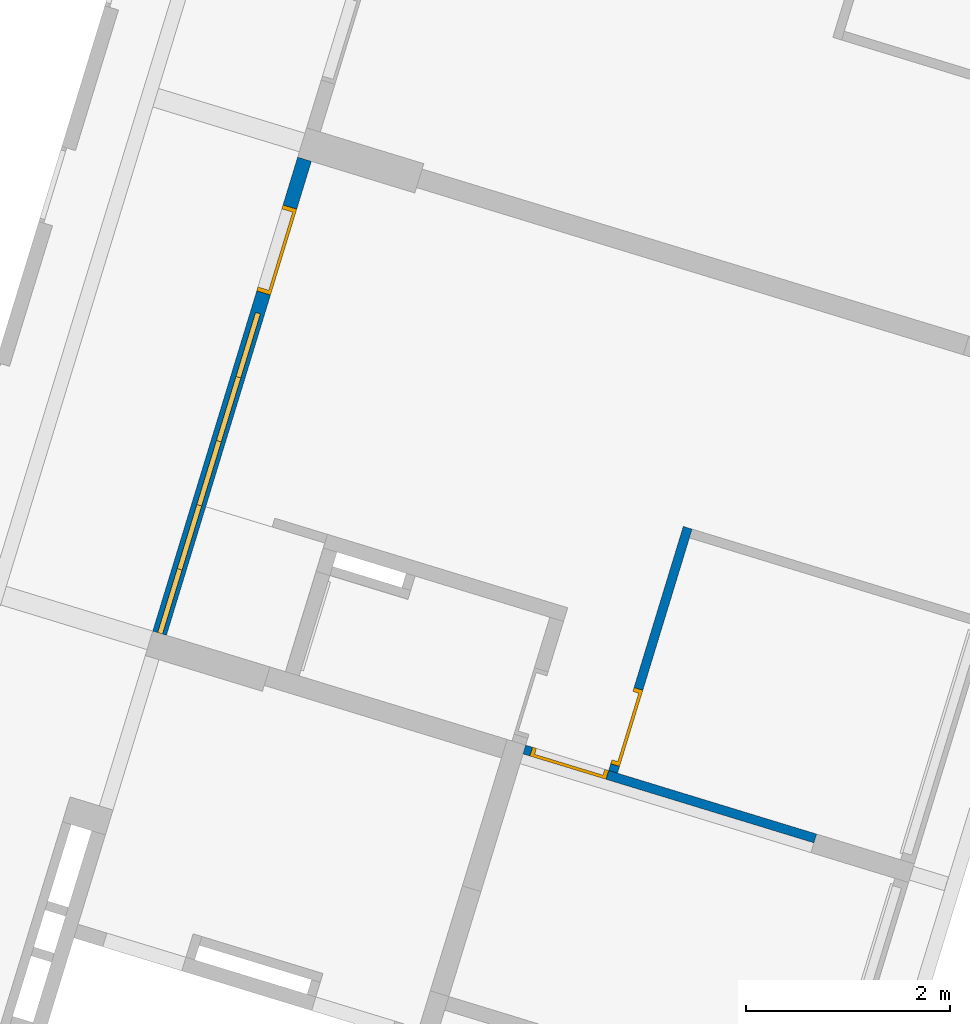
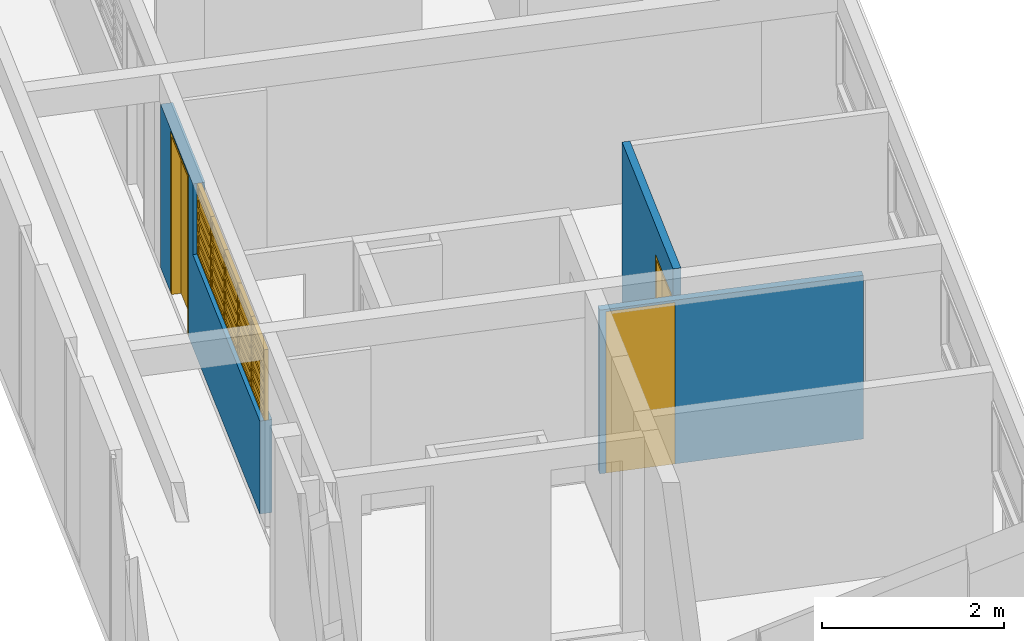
# One storey, part 2 of 18: 5 windows, 3 doors, 3 walls, 8 openings.
"""IFC2X3 building model written with IfcOpenShell, lengths in millimetres."""

from ifc_helpers import new_model, entity, si_unit, converted_unit, derived_unit, money_unit, direction, frame, origin_with_axes, place, context, subcontext, project, spatial, open_shell, faceted_brep, surface_model, source, transform, mapped, material, type_object, element, fill, save


model = new_model("IFC2X3")

# Units and contexts
model_context = context("Model", 3, precision=0.01, world=origin_with_axes(), true_north=direction((0.0, 1.0)))
body_context = subcontext(model_context, "Body", "Model", "MODEL_VIEW")
ifc_project = project(units=[si_unit("LENGTHUNIT", "METRE", prefix="MILLI"), si_unit("AREAUNIT", "SQUARE_METRE"), si_unit("VOLUMEUNIT", "CUBIC_METRE"), converted_unit("PLANEANGLEUNIT", "DEGREE", entity("IfcPlaneAngleMeasure", 0.0174532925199), si_unit("PLANEANGLEUNIT", "RADIAN"), dimensions=[0, 0, 0, 0, 0, 0, 0]), money_unit("USD"), converted_unit("TIMEUNIT", "Year", entity("IfcTimeMeasure", 31556926.0), si_unit("TIMEUNIT", "SECOND"), dimensions=[0, 0, 1, 0, 0, 0, 0]), si_unit("MASSUNIT", "GRAM", prefix="KILO"), si_unit("THERMODYNAMICTEMPERATUREUNIT", "DEGREE_CELSIUS"), si_unit("LUMINOUSINTENSITYUNIT", "LUMEN"), si_unit("ENERGYUNIT", "JOULE", prefix="MEGA"), derived_unit("THERMALCONDUCTANCEUNIT", [(si_unit("POWERUNIT", "WATT"), 1), (si_unit("LENGTHUNIT", "METRE"), -1), (si_unit("THERMODYNAMICTEMPERATUREUNIT", "KELVIN"), -1)]), derived_unit("SPECIFICHEATCAPACITYUNIT", [(si_unit("ENERGYUNIT", "JOULE"), 1), (si_unit("MASSUNIT", "GRAM", prefix="KILO"), -1), (si_unit("THERMODYNAMICTEMPERATUREUNIT", "KELVIN"), -1)]), derived_unit("MASSDENSITYUNIT", [(si_unit("MASSUNIT", "GRAM", prefix="KILO"), 1), (si_unit("VOLUMEUNIT", "CUBIC_METRE"), -1)])], contexts=[model_context])

# Site, building, storey, space
site_placement = place(None, frame((0.0, 0.0, 0.0), z_axis=(0.0, 0.0, 1.0), x_axis=(0.956304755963, -0.292371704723, 0.0)))
site = spatial("IfcSite", under=ifc_project, at=site_placement, Name="Site", CompositionType="ELEMENT")
building_placement = place(site_placement, origin_with_axes())
building = spatial("IfcBuilding", under=site, at=building_placement, Name="Building", CompositionType="ELEMENT")
storey_placement = place(building_placement, origin_with_axes())
storey = spatial("IfcBuildingStorey", under=building, at=storey_placement, Name="Pavimento tipo", CompositionType="ELEMENT", Elevation=0.0)
space_placement = place(storey_placement, frame((2841.71099896, 14449.9999947, 0.0), z_axis=(0.0, 0.0, 1.0), x_axis=(6.32291681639e-07, -1.0, 0.0)))
space = spatial("IfcSpace", under=storey, at=space_placement, Name="02", CompositionType="ELEMENT", InteriorOrExteriorSpace="INTERNAL")

# Wall, opening, door
ifc_material = material(Name="Tijolo - Estrutural")
wall_type_1 = type_object("IfcWallType", Name="Tijolo - Estrutural 90", PredefinedType="NOTDEFINED")
wall_1_placement = place(space_placement, frame((4909.98823067, 5599.99687912, 0.0), z_axis=(0.0, 0.0, 1.0), x_axis=(-6.30554045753e-07, -1.0, 0.0)))
wall_1 = element("IfcWall", 1, at=wall_1_placement, inside=space, type_object=wall_type_1, material=ifc_material, Name="Apt 02 - Parede 29", context=body_context, shape_type="Brep", body=[
    faceted_brep([(2909.99999781, -5.05652053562e-06, 2170.0), (2909.99999781, -5.05652053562e-06, 0.0), (2979.99994213, -5.17815479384e-06, 0.0), (2979.99994213, -5.17815479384e-06, 2200.0), (0.0, 0.0, 2200.0), (0.0, 0.0, 0.0), (2129.99999781, -3.70116381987e-06, 0.0), (2129.99999781, -3.70116381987e-06, 2170.0), (2909.99999797, 89.9999949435, 2170.0), (2909.99999797, 89.9999949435, 0.0), (2979.99987116, 89.9999948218, 0.0), (2979.99987116, 89.9999948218, 2200.0), (1.56386903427e-07, 90.0, 2200.0), (1.56386903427e-07, 90.0, 0.0), (2129.99999797, 89.9999962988, 0.0), (2129.99999797, 89.9999962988, 2170.0)], [[[0, 1, 2, 3, 4, 5, 6, 7]], [[1, 0, 8, 9]], [[1, 9, 10, 2]], [[11, 3, 2, 10]], [[3, 11, 12, 4]], [[5, 4, 12, 13]], [[14, 6, 5, 13]], [[7, 6, 14, 15]], [[0, 7, 15, 8]], [[15, 14, 13, 12, 11, 10, 9, 8]]]),
])
opening_1_placement = place(wall_1_placement, frame((2519.99999781, 0.0, 0.0), z_axis=(0.0, 0.0, 1.0), x_axis=(1.0, 0.0, 0.0)))
opening_1 = element("IfcOpeningElement", 2, at=opening_1_placement, cuts=wall_1, Name="Apt 02 - Porta 07", context=body_context, shape_type="Brep", body=[
    faceted_brep([(390.000000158, 91.0000001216, 2170.0), (390.000000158, 91.0000001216, 0.0), (-389.999999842, 91.000001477, 0.0), (-389.999999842, 91.000001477, 2170.0), (389.999999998, -1.00000505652, 2170.0), (389.999999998, -1.00000505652, 0.0), (-390.000000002, -1.00000370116, 0.0), (-390.000000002, -1.00000370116, 2170.0)], [[[0, 1, 2, 3]], [[4, 5, 1, 0]], [[5, 6, 2, 1]], [[6, 7, 3, 2]], [[7, 4, 0, 3]], [[6, 5, 4, 7]]]),
])
door_style_1 = type_object("IfcDoorStyle", Name="Door 26", ConstructionType="NOTDEFINED", OperationType="SINGLE_SWING_RIGHT", ParameterTakesPrecedence=False, Sizeable=False)
shared_shape_1 = source(origin_with_axes(), body_context, "Body", "Brep", [
    faceted_brep([(-350.0, -30.0, 0.0), (-350.0, -30.0, 2130.0), (-350.0, -90.0, 2130.0), (-350.0, -90.0, 0.0), (-360.0, -30.0, 2130.0), (-360.0, -30.0, 0.0), (-360.0, 0.0, 2130.0), (-390.0, 0.0, 2130.0), (-390.0, -90.0, 2130.0), (-390.0, -90.0, 0.0), (-390.0, 0.0, 0.0), (-360.0, 0.0, 0.0)], [[[0, 1, 2, 3]], [[4, 1, 0, 5]], [[4, 6, 7, 8, 2, 1]], [[3, 2, 8, 9]], [[5, 0, 3, 9, 10, 11]], [[6, 4, 5, 11]], [[6, 11, 10, 7]], [[10, 9, 8, 7]]]),
    faceted_brep([(360.0, -30.0, 2130.0), (350.0, -30.0, 2130.0), (350.0, -90.0, 2130.0), (390.0, -90.0, 2130.0), (390.0, 0.0, 2130.0), (360.0, 0.0, 2130.0), (360.0, -30.0, 0.0), (350.0, -30.0, 0.0), (350.0, -90.0, 0.0), (390.0, -90.0, 0.0), (390.0, 0.0, 0.0), (360.0, 0.0, 0.0)], [[[0, 1, 2, 3, 4, 5]], [[1, 0, 6, 7]], [[1, 7, 8, 2]], [[3, 2, 8, 9]], [[4, 3, 9, 10]], [[11, 5, 4, 10]], [[0, 5, 11, 6]], [[6, 11, 10, 9, 8, 7]]]),
    faceted_brep([(-360.0, 0.0, 2140.0), (-360.0, 0.0, 2130.0), (-390.0, 0.0, 2130.0), (-390.0, 0.0, 2170.0), (390.0, 0.0, 2170.0), (390.0, 0.0, 2130.0), (360.0, 0.0, 2130.0), (360.0, 0.0, 2140.0), (-360.0, -30.0, 2140.0), (-360.0, -30.0, 2130.0), (-350.0, -30.0, 2130.0), (-350.0, -90.0, 2130.0), (-390.0, -90.0, 2130.0), (-390.0, -90.0, 2170.0), (390.0, -90.0, 2170.0), (390.0, -90.0, 2130.0), (360.0, -30.0, 2130.0), (350.0, -90.0, 2130.0), (350.0, -30.0, 2130.0), (360.0, -30.0, 2140.0)], [[[0, 1, 2, 3, 4, 5, 6, 7]], [[1, 0, 8, 9]], [[9, 10, 11, 12, 2, 1]], [[2, 12, 13, 3]], [[3, 13, 14, 4]], [[4, 14, 15, 5]], [[16, 6, 5, 15, 17, 18]], [[7, 6, 16, 19]], [[0, 7, 19, 8]], [[16, 18, 10, 9, 8, 19]], [[10, 18, 17, 11]], [[17, 15, 14, 13, 12, 11]]]),
    faceted_brep([(360.0, 0.0, 0.0), (360.0, -30.0, 0.0), (-360.0, -30.0, 0.0), (-360.0, 0.0, 0.0), (360.0, 0.0, 2140.0), (360.0, -30.0, 2140.0), (-360.0, -30.0, 2140.0), (-360.0, 0.0, 2140.0)], [[[0, 1, 2, 3]], [[4, 5, 1, 0]], [[1, 5, 6, 2]], [[3, 2, 6, 7]], [[0, 3, 7, 4]], [[7, 6, 5, 4]]]),
])
door_1_placement = place(opening_1_placement, frame((-390.0, 0.0, 0.0), z_axis=(0.0, 0.0, 1.0), x_axis=(1.0, 0.0, 0.0)))
door_1 = element("IfcDoor", 3, at=door_1_placement, inside=space, type_object=door_style_1, Name="Apt 02 - Porta 07", OverallHeight=2170.0, OverallWidth=780.0, context=body_context, shape_type="MappedRepresentation", body=[
    mapped(shared_shape_1, transform((390.000000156, 89.9999956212, 0.0))),
])
fill(opening_1, door_1)

wall_2_placement = place(space_placement, frame((4909.98691596, 3514.99688139, 0.0), z_axis=(0.0, 0.0, 1.0), x_axis=(-1.0, 6.32291681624e-07, 0.0)))
wall_2 = element("IfcWall", 4, at=wall_2_placement, inside=space, type_object=wall_type_1, material=ifc_material, Name="Apt 02 - Parede 40", context=body_context, shape_type="Brep", body=[
    faceted_brep([(69.7788198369, -45.0, 0.0), (69.7788198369, -45.0, 2170.0), (849.778819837, -45.0, 2170.0), (849.778819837, -45.0, 0.0), (2499.9999754, -45.0, 0.0), (2499.9999754, -45.0, 2560.0), (0.0, -45.0, 2560.0), (3.6229685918e-06, -45.0, 2200.0), (3.6229685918e-06, -45.0, 0.0), (69.7788198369, 45.0, 0.0), (69.7788198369, 45.0, 2170.0), (849.778819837, 45.0, 2170.0), (849.778819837, 45.0, 0.0), (2500.00003182, 45.0, 0.0), (2500.00003182, 45.0, 2560.0), (0.0, 45.0, 2560.0), (3.6229685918e-06, 45.0, 2200.0), (3.6229685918e-06, 45.0, 0.0)], [[[0, 1, 2, 3, 4, 5, 6, 7, 8]], [[1, 0, 9, 10]], [[2, 1, 10, 11]], [[3, 2, 11, 12]], [[3, 12, 13, 4]], [[14, 5, 4, 13]], [[14, 15, 6, 5]], [[16, 7, 6, 15]], [[8, 7, 16, 17]], [[9, 0, 8, 17]], [[10, 9, 17, 16, 15, 14, 13, 12, 11]]]),
])
opening_2_placement = place(wall_2_placement, frame((459.778819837, 0.0, 0.0), z_axis=(0.0, 0.0, 1.0), x_axis=(1.0, 0.0, 0.0)))
opening_2 = element("IfcOpeningElement", 5, at=opening_2_placement, cuts=wall_2, Name="Apt 02 - Porta 08", context=body_context, shape_type="Brep", body=[
    faceted_brep([(-390.0, -46.0, 2170.0), (-390.0, -46.0, 0.0), (390.0, -46.0, 0.0), (390.0, -46.0, 2170.0), (-390.0, 46.0, 2170.0), (-390.0, 46.0, 0.0), (390.0, 46.0, 0.0), (390.0, 46.0, 2170.0)], [[[0, 1, 2, 3]], [[4, 5, 1, 0]], [[5, 6, 2, 1]], [[6, 7, 3, 2]], [[7, 4, 0, 3]], [[6, 5, 4, 7]]]),
])
door_2_placement = place(opening_2_placement, frame((390.0, 0.0, 0.0), z_axis=(0.0, 0.0, 1.0), x_axis=(-1.0, 0.0, 0.0)))
door_2 = element("IfcDoor", 6, at=door_2_placement, inside=space, type_object=door_style_1, Name="Apt 02 - Porta 08", OverallHeight=2170.0, OverallWidth=780.0, context=body_context, shape_type="MappedRepresentation", body=[
    mapped(shared_shape_1, transform((390.0, 45.0, 0.0))),
])
fill(opening_2, door_2)

# Wall, openings, windows, door
wall_type_2 = type_object("IfcWallType", Name="Tijolo - Estrutural 140", PredefinedType="NOTDEFINED")
wall_3_placement = place(storey_placement, frame((1711.71098285, 9539.99999613, 0.0), z_axis=(0.0, 0.0, 1.0), x_axis=(0.0, 1.0, 0.0)))
wall_3 = element("IfcWall", 7, at=wall_3_placement, inside=storey, type_object=wall_type_2, material=ifc_material, Name="Apt 02 - Parede 34", context=body_context, shape_type="Brep", body=[
    faceted_brep([(3484.99999858, -70.0, 0.0), (3484.99999858, -70.0, 2170.0), (4364.99999858, -70.0, 2170.0), (4364.99999858, -70.0, 0.0), (4854.99999858, -70.0, 0.0), (4854.99999858, -70.0, 2200.0), (3280.0, -70.0, 2200.0), (3280.0, -70.0, 1250.0), (0.0, -70.0, 1250.0), (0.0, -70.0, 0.0), (3484.99999858, 70.0, 0.0), (3484.99999858, 70.0, 2170.0), (4364.99999858, 70.0, 2170.0), (4364.99999858, 70.0, 0.0), (4854.99999858, 70.0, 0.0), (4854.99999858, 70.0, 2200.0), (3280.0, 70.0, 2200.0), (3280.0, 70.0, 1250.0), (0.0, 70.0, 1250.0), (0.0, 70.0, 0.0)], [[[0, 1, 2, 3, 4, 5, 6, 7, 8, 9]], [[1, 0, 10, 11]], [[2, 1, 11, 12]], [[3, 2, 12, 13]], [[3, 13, 14, 4]], [[4, 14, 15, 5]], [[5, 15, 16, 6]], [[7, 6, 16, 17]], [[8, 7, 17, 18]], [[18, 19, 9, 8]], [[10, 0, 9, 19]], [[11, 10, 19, 18, 17, 16, 15, 14, 13, 12]]]),
])
opening_3_placement = place(wall_3_placement, frame((328.0, 0.0, 1250.0), z_axis=(0.0, 0.0, 1.0), x_axis=(1.0, 0.0, 0.0)))
opening_3 = element("IfcOpeningElement", 8, at=opening_3_placement, cuts=wall_3, Name="Apt 02 - J14", context=body_context, shape_type="Brep", body=[
    faceted_brep([(-328.0, 20.0, 0.0), (-328.0, 20.0, 950.0), (-328.0, 71.0, 950.0), (-328.0, 71.0, 0.0), (-328.0, -71.0, 0.0), (-328.0, -71.0, 950.0), (328.0, 20.0, 950.0), (328.0, 71.0, 950.0), (328.0, -71.0, 950.0), (328.0, 71.0, 0.0), (328.0, 20.0, 0.0), (328.0, -71.0, 0.0)], [[[0, 1, 2, 3]], [[1, 0, 4, 5]], [[6, 7, 2, 1, 5, 8]], [[7, 9, 3, 2]], [[0, 3, 9, 10, 11, 4]], [[5, 4, 11, 8]], [[6, 10, 9, 7]], [[10, 6, 8, 11]]]),
])
opening_4_placement = place(wall_3_placement, frame((984.0, 0.0, 1250.0), z_axis=(0.0, 0.0, 1.0), x_axis=(1.0, 0.0, 0.0)))
opening_4 = element("IfcOpeningElement", 9, at=opening_4_placement, cuts=wall_3, Name="Apt 02 - J15", context=body_context, shape_type="Brep", body=[
    faceted_brep([(-328.0, 20.0, 0.0), (-328.0, 20.0, 950.0), (-328.0, 71.0, 950.0), (-328.0, 71.0, 0.0), (-328.0, -71.0, 0.0), (-328.0, -71.0, 950.0), (328.0, 20.0, 950.0), (328.0, 71.0, 950.0), (328.0, -71.0, 950.0), (328.0, 71.0, 0.0), (328.0, 20.0, 0.0), (328.0, -71.0, 0.0)], [[[0, 1, 2, 3]], [[1, 0, 4, 5]], [[6, 7, 2, 1, 5, 8]], [[7, 9, 3, 2]], [[0, 3, 9, 10, 11, 4]], [[5, 4, 11, 8]], [[6, 10, 9, 7]], [[10, 6, 8, 11]]]),
])
opening_5_placement = place(wall_3_placement, frame((1640.0, 0.0, 1250.0), z_axis=(0.0, 0.0, 1.0), x_axis=(1.0, 0.0, 0.0)))
opening_5 = element("IfcOpeningElement", 10, at=opening_5_placement, cuts=wall_3, Name="Apt 02 - J16", context=body_context, shape_type="Brep", body=[
    faceted_brep([(-328.0, 20.0, 0.0), (-328.0, 20.0, 950.0), (-328.0, 71.0, 950.0), (-328.0, 71.0, 0.0), (-328.0, -71.0, 0.0), (-328.0, -71.0, 950.0), (328.0, 20.0, 950.0), (328.0, 71.0, 950.0), (328.0, -71.0, 950.0), (328.0, 71.0, 0.0), (328.0, 20.0, 0.0), (328.0, -71.0, 0.0)], [[[0, 1, 2, 3]], [[1, 0, 4, 5]], [[6, 7, 2, 1, 5, 8]], [[7, 9, 3, 2]], [[0, 3, 9, 10, 11, 4]], [[5, 4, 11, 8]], [[6, 10, 9, 7]], [[10, 6, 8, 11]]]),
])
opening_6_placement = place(wall_3_placement, frame((2296.0, 0.0, 1250.0), z_axis=(0.0, 0.0, 1.0), x_axis=(1.0, 0.0, 0.0)))
opening_6 = element("IfcOpeningElement", 11, at=opening_6_placement, cuts=wall_3, Name="Apt 02 - J17", context=body_context, shape_type="Brep", body=[
    faceted_brep([(-328.0, 20.0, 0.0), (-328.0, 20.0, 950.0), (-328.0, 71.0, 950.0), (-328.0, 71.0, 0.0), (-328.0, -71.0, 0.0), (-328.0, -71.0, 950.0), (328.0, 20.0, 950.0), (328.0, 71.0, 950.0), (328.0, -71.0, 950.0), (328.0, 71.0, 0.0), (328.0, 20.0, 0.0), (328.0, -71.0, 0.0)], [[[0, 1, 2, 3]], [[1, 0, 4, 5]], [[6, 7, 2, 1, 5, 8]], [[7, 9, 3, 2]], [[0, 3, 9, 10, 11, 4]], [[5, 4, 11, 8]], [[6, 10, 9, 7]], [[10, 6, 8, 11]]]),
])
opening_7_placement = place(wall_3_placement, frame((2952.0, 0.0, 1250.0), z_axis=(0.0, 0.0, 1.0), x_axis=(1.0, 0.0, 0.0)))
opening_7 = element("IfcOpeningElement", 12, at=opening_7_placement, cuts=wall_3, Name="Apt 02 - J18", context=body_context, shape_type="Brep", body=[
    faceted_brep([(-328.0, 20.0, 0.0), (-328.0, 20.0, 950.0), (-328.0, 71.0, 950.0), (-328.0, 71.0, 0.0), (-328.0, -71.0, 0.0), (-328.0, -71.0, 950.0), (328.0, 20.0, 950.0), (328.0, 71.0, 950.0), (328.0, -71.0, 950.0), (328.0, 71.0, 0.0), (328.0, 20.0, 0.0), (328.0, -71.0, 0.0)], [[[0, 1, 2, 3]], [[1, 0, 4, 5]], [[6, 7, 2, 1, 5, 8]], [[7, 9, 3, 2]], [[0, 3, 9, 10, 11, 4]], [[5, 4, 11, 8]], [[6, 10, 9, 7]], [[10, 6, 8, 11]]]),
])
opening_8_placement = place(wall_3_placement, frame((3924.99999858, 0.0, 0.0), z_axis=(0.0, 0.0, 1.0), x_axis=(1.0, 0.0, 0.0)))
opening_8 = element("IfcOpeningElement", 13, at=opening_8_placement, cuts=wall_3, Name="Apt 02 - Porta 06", context=body_context, shape_type="Brep", body=[
    faceted_brep([(-440.0, -71.0, 2170.0), (-440.0, -71.0, 0.0), (440.0, -71.0, 0.0), (440.0, -71.0, 2170.0), (-440.0, 71.0, 2170.0), (-440.0, 71.0, 0.0), (440.0, 71.0, 0.0), (440.0, 71.0, 2170.0)], [[[0, 1, 2, 3]], [[4, 5, 1, 0]], [[5, 6, 2, 1]], [[6, 7, 3, 2]], [[7, 4, 0, 3]], [[6, 5, 4, 7]]]),
])
window_style = type_object("IfcWindowStyle", Name="Janela Multi-Caixilho Vertical 26", ConstructionType="NOTDEFINED", OperationType="USERDEFINED", ParameterTakesPrecedence=False, Sizeable=False)
shared_shape_2 = source(origin_with_axes(), body_context, "Body", "SurfaceModel", [
    faceted_brep([(293.0, -50.0, 915.0), (328.0, -50.0, 915.0), (328.0, 0.0, 915.0), (293.0, 0.0, 915.0), (293.0, -50.0, 807.5), (283.0, -50.0, 762.5), (283.0, -50.0, 655.0), (283.0, -50.0, 600.0), (283.0, -50.0, 492.5), (283.0, -50.0, 437.5), (283.0, -50.0, 330.0), (293.0, -50.0, 285.0), (293.0, -50.0, 177.5), (293.0, -50.0, 142.5), (293.0, -50.0, 35.0), (328.0, -50.0, 35.0), (328.0, 0.0, 35.0), (293.0, 0.0, 35.0), (293.0, 0.0, 142.5), (293.0, 0.0, 177.5), (293.0, 0.0, 285.0), (283.0, 0.0, 330.0), (283.0, 0.0, 437.5), (283.0, 0.0, 492.5), (283.0, 0.0, 600.0), (283.0, 0.0, 655.0), (283.0, 0.0, 762.5), (293.0, 0.0, 807.5)], [[[0, 1, 2, 3]], [[0, 4, 5, 6, 7, 8, 9, 10, 11, 12, 13, 14, 15, 1]], [[1, 15, 16, 2]], [[3, 2, 16, 17, 18, 19, 20, 21, 22, 23, 24, 25, 26, 27]], [[4, 0, 3, 27]], [[5, 4, 27, 26]], [[6, 5, 26, 25]], [[7, 6, 25, 24]], [[8, 7, 24, 23]], [[9, 8, 23, 22]], [[10, 9, 22, 21]], [[11, 10, 21, 20]], [[12, 11, 20, 19]], [[13, 12, 19, 18]], [[14, 13, 18, 17]], [[15, 14, 17, 16]]]),
    faceted_brep([(-293.0, -50.0, 807.5), (-283.0, -50.0, 762.5), (-283.0, 0.0, 762.5), (-293.0, 0.0, 807.5), (-293.0, -50.0, 915.0), (-328.0, -50.0, 915.0), (-328.0, -50.0, 35.0), (-293.0, -50.0, 35.0), (-293.0, -50.0, 142.5), (-293.0, -50.0, 177.5), (-293.0, -50.0, 285.0), (-283.0, -50.0, 330.0), (-283.0, -50.0, 437.5), (-283.0, -50.0, 492.5), (-283.0, -50.0, 600.0), (-283.0, -50.0, 655.0), (-283.0, 0.0, 655.0), (-283.0, 0.0, 600.0), (-283.0, 0.0, 492.5), (-283.0, 0.0, 437.5), (-283.0, 0.0, 330.0), (-293.0, 0.0, 285.0), (-293.0, 0.0, 177.5), (-293.0, 0.0, 142.5), (-293.0, 0.0, 35.0), (-328.0, 0.0, 35.0), (-328.0, 0.0, 915.0), (-293.0, 0.0, 915.0)], [[[0, 1, 2, 3]], [[0, 4, 5, 6, 7, 8, 9, 10, 11, 12, 13, 14, 15, 1]], [[1, 15, 16, 2]], [[3, 2, 16, 17, 18, 19, 20, 21, 22, 23, 24, 25, 26, 27]], [[4, 0, 3, 27]], [[5, 4, 27, 26]], [[6, 5, 26, 25]], [[7, 6, 25, 24]], [[8, 7, 24, 23]], [[9, 8, 23, 22]], [[10, 9, 22, 21]], [[11, 10, 21, 20]], [[12, 11, 20, 19]], [[13, 12, 19, 18]], [[14, 13, 18, 17]], [[15, 14, 17, 16]]]),
    faceted_brep([(-293.0, -50.0, 915.0), (-328.0, -50.0, 915.0), (-328.0, 0.0, 915.0), (-293.0, 0.0, 915.0), (293.0, -50.0, 915.0), (328.0, -50.0, 915.0), (328.0, -50.0, 950.0), (-328.0, -50.0, 950.0), (-328.0, 0.0, 950.0), (328.0, 0.0, 950.0), (328.0, 0.0, 915.0), (293.0, 0.0, 915.0)], [[[0, 1, 2, 3]], [[0, 4, 5, 6, 7, 1]], [[1, 7, 8, 2]], [[3, 2, 8, 9, 10, 11]], [[4, 0, 3, 11]], [[5, 4, 11, 10]], [[6, 5, 10, 9]], [[7, 6, 9, 8]]]),
    faceted_brep([(293.0, -50.0, 35.0), (328.0, -50.0, 35.0), (328.0, 0.0, 35.0), (293.0, 0.0, 35.0), (-293.0, -50.0, 35.0), (-328.0, -50.0, 35.0), (-328.0, -50.0, 0.0), (328.0, -50.0, 0.0), (328.0, 0.0, 0.0), (-328.0, 0.0, 0.0), (-328.0, 0.0, 35.0), (-293.0, 0.0, 35.0)], [[[0, 1, 2, 3]], [[0, 4, 5, 6, 7, 1]], [[1, 7, 8, 2]], [[3, 2, 8, 9, 10, 11]], [[4, 0, 3, 11]], [[5, 4, 11, 10]], [[6, 5, 10, 9]], [[7, 6, 9, 8]]]),
    faceted_brep([(-293.0, -50.0, 177.5), (293.0, -50.0, 177.5), (293.0, 0.0, 177.5), (-293.0, 0.0, 177.5), (-293.0, -50.0, 142.5), (293.0, -50.0, 142.5), (293.0, 0.0, 142.5), (-293.0, 0.0, 142.5)], [[[0, 1, 2, 3]], [[0, 4, 5, 1]], [[1, 5, 6, 2]], [[3, 2, 6, 7]], [[4, 0, 3, 7]], [[5, 4, 7, 6]]]),
    faceted_brep([(-283.0, -50.0, 330.0), (283.0, -50.0, 330.0), (283.0, 0.0, 330.0), (-283.0, 0.0, 330.0), (-293.0, -50.0, 285.0), (293.0, -50.0, 285.0), (293.0, 0.0, 285.0), (-293.0, 0.0, 285.0)], [[[0, 1, 2, 3]], [[0, 4, 5, 1]], [[1, 5, 6, 2]], [[3, 2, 6, 7]], [[4, 0, 3, 7]], [[5, 4, 7, 6]]]),
    faceted_brep([(-283.0, -50.0, 492.5), (283.0, -50.0, 492.5), (283.0, 0.0, 492.5), (-283.0, 0.0, 492.5), (-283.0, -50.0, 437.5), (283.0, -50.0, 437.5), (283.0, 0.0, 437.5), (-283.0, 0.0, 437.5)], [[[0, 1, 2, 3]], [[0, 4, 5, 1]], [[1, 5, 6, 2]], [[3, 2, 6, 7]], [[4, 0, 3, 7]], [[5, 4, 7, 6]]]),
    faceted_brep([(-283.0, -50.0, 655.0), (283.0, -50.0, 655.0), (283.0, 0.0, 655.0), (-283.0, 0.0, 655.0), (-283.0, -50.0, 600.0), (283.0, -50.0, 600.0), (283.0, 0.0, 600.0), (-283.0, 0.0, 600.0)], [[[0, 1, 2, 3]], [[0, 4, 5, 1]], [[1, 5, 6, 2]], [[3, 2, 6, 7]], [[4, 0, 3, 7]], [[5, 4, 7, 6]]]),
    faceted_brep([(-293.0, -50.0, 807.5), (293.0, -50.0, 807.5), (293.0, 0.0, 807.5), (-293.0, 0.0, 807.5), (-283.0, -50.0, 762.5), (283.0, -50.0, 762.5), (283.0, 0.0, 762.5), (-283.0, 0.0, 762.5)], [[[0, 1, 2, 3]], [[0, 4, 5, 1]], [[1, 5, 6, 2]], [[3, 2, 6, 7]], [[4, 0, 3, 7]], [[5, 4, 7, 6]]]),
    surface_model("IfcShellBasedSurfaceModel", [(293.0, -35.0, 35.0), (293.0, -35.0, 142.5), (-293.0, -35.0, 142.5), (-293.0, -35.0, 35.0)], [open_shell([[[0, 1, 2, 3]]])]),
    surface_model("IfcShellBasedSurfaceModel", [(293.0, -15.0, 35.0), (-293.0, -15.0, 35.0), (-293.0, -15.0, 142.5), (293.0, -15.0, 142.5)], [open_shell([[[0, 1, 2, 3]]])]),
    surface_model("IfcShellBasedSurfaceModel", [(293.0, -35.0, 177.5), (293.0, -35.0, 285.0), (-293.0, -35.0, 285.0), (-293.0, -35.0, 177.5)], [open_shell([[[0, 1, 2, 3]]])]),
    surface_model("IfcShellBasedSurfaceModel", [(293.0, -15.0, 177.5), (-293.0, -15.0, 177.5), (-293.0, -15.0, 285.0), (293.0, -15.0, 285.0)], [open_shell([[[0, 1, 2, 3]]])]),
    surface_model("IfcShellBasedSurfaceModel", [(283.0, -15.0, 330.0), (-283.0, -15.0, 330.0), (-283.0, -15.0, 437.5), (283.0, -15.0, 437.5)], [open_shell([[[0, 1, 2, 3]]])]),
    surface_model("IfcShellBasedSurfaceModel", [(283.0, -35.0, 330.0), (283.0, -35.0, 437.5), (-283.0, -35.0, 437.5), (-283.0, -35.0, 330.0)], [open_shell([[[0, 1, 2, 3]]])]),
    surface_model("IfcShellBasedSurfaceModel", [(283.0, -15.0, 492.5), (-283.0, -15.0, 492.5), (-283.0, -15.0, 600.0), (283.0, -15.0, 600.0)], [open_shell([[[0, 1, 2, 3]]])]),
    surface_model("IfcShellBasedSurfaceModel", [(283.0, -35.0, 492.5), (283.0, -35.0, 600.0), (-283.0, -35.0, 600.0), (-283.0, -35.0, 492.5)], [open_shell([[[0, 1, 2, 3]]])]),
    surface_model("IfcShellBasedSurfaceModel", [(283.0, -15.0, 655.0), (-283.0, -15.0, 655.0), (-283.0, -15.0, 762.5), (283.0, -15.0, 762.5)], [open_shell([[[0, 1, 2, 3]]])]),
    surface_model("IfcShellBasedSurfaceModel", [(283.0, -35.0, 655.0), (283.0, -35.0, 762.5), (-283.0, -35.0, 762.5), (-283.0, -35.0, 655.0)], [open_shell([[[0, 1, 2, 3]]])]),
    surface_model("IfcShellBasedSurfaceModel", [(293.0, -35.0, 807.5), (293.0, -35.0, 915.0), (-293.0, -35.0, 915.0), (-293.0, -35.0, 807.5)], [open_shell([[[0, 1, 2, 3]]])]),
    surface_model("IfcShellBasedSurfaceModel", [(293.0, -15.0, 807.5), (-293.0, -15.0, 807.5), (-293.0, -15.0, 915.0), (293.0, -15.0, 915.0)], [open_shell([[[0, 1, 2, 3]]])]),
])
window_1_placement = place(opening_3_placement, frame((-328.0, 0.0, 0.0), z_axis=(0.0, 0.0, 1.0), x_axis=(1.0, 0.0, 0.0)))
window_1 = element("IfcWindow", 14, at=window_1_placement, inside=storey, type_object=window_style, Name="Apt 02 - J14", OverallHeight=950.0, OverallWidth=656.0, context=body_context, shape_type="MappedRepresentation", body=[
    mapped(shared_shape_2, transform((328.0, 20.0, 0.0))),
])
fill(opening_3, window_1)
window_2_placement = place(opening_4_placement, frame((-328.0, 0.0, 0.0), z_axis=(0.0, 0.0, 1.0), x_axis=(1.0, 0.0, 0.0)))
window_2 = element("IfcWindow", 15, at=window_2_placement, inside=storey, type_object=window_style, Name="Apt 02 - J15", OverallHeight=950.0, OverallWidth=656.0, context=body_context, shape_type="MappedRepresentation", body=[
    mapped(shared_shape_2, transform((328.0, 20.0, 0.0))),
])
fill(opening_4, window_2)
window_3_placement = place(opening_5_placement, frame((-328.0, 0.0, 0.0), z_axis=(0.0, 0.0, 1.0), x_axis=(1.0, 0.0, 0.0)))
window_3 = element("IfcWindow", 16, at=window_3_placement, inside=storey, type_object=window_style, Name="Apt 02 - J16", OverallHeight=950.0, OverallWidth=656.0, context=body_context, shape_type="MappedRepresentation", body=[
    mapped(shared_shape_2, transform((328.0, 20.0, 0.0))),
])
fill(opening_5, window_3)
window_4_placement = place(opening_6_placement, frame((-328.0, 0.0, 0.0), z_axis=(0.0, 0.0, 1.0), x_axis=(1.0, 0.0, 0.0)))
window_4 = element("IfcWindow", 17, at=window_4_placement, inside=storey, type_object=window_style, Name="Apt 02 - J17", OverallHeight=950.0, OverallWidth=656.0, context=body_context, shape_type="MappedRepresentation", body=[
    mapped(shared_shape_2, transform((328.0, 20.0, 0.0))),
])
fill(opening_6, window_4)
window_5_placement = place(opening_7_placement, frame((-328.0, 0.0, 0.0), z_axis=(0.0, 0.0, 1.0), x_axis=(1.0, 0.0, 0.0)))
window_5 = element("IfcWindow", 18, at=window_5_placement, inside=storey, type_object=window_style, Name="Apt 02 - J18", OverallHeight=950.0, OverallWidth=656.0, context=body_context, shape_type="MappedRepresentation", body=[
    mapped(shared_shape_2, transform((328.0, 20.0, 0.0))),
])
fill(opening_7, window_5)
door_style_2 = type_object("IfcDoorStyle", Name="Door 26", ConstructionType="NOTDEFINED", OperationType="SINGLE_SWING_LEFT", ParameterTakesPrecedence=False, Sizeable=False)
shared_shape_3 = source(origin_with_axes(), body_context, "Body", "Brep", [
    faceted_brep([(400.0, -30.0, 0.0), (400.0, -140.0, 0.0), (400.0, -140.0, 2130.0), (400.0, -30.0, 2130.0), (410.0, -30.0, 0.0), (410.0, 0.0, 0.0), (440.0, 0.0, 0.0), (440.0, -140.0, 0.0), (440.0, -140.0, 2130.0), (410.0, -30.0, 2130.0), (440.0, 0.0, 2130.0), (410.0, 0.0, 2130.0)], [[[0, 1, 2, 3]], [[4, 5, 6, 7, 1, 0]], [[1, 7, 8, 2]], [[9, 3, 2, 8, 10, 11]], [[9, 4, 0, 3]], [[11, 5, 4, 9]], [[11, 10, 6, 5]], [[6, 10, 8, 7]]]),
    faceted_brep([(-410.0, -30.0, 2130.0), (-410.0, 0.0, 2130.0), (-440.0, 0.0, 2130.0), (-440.0, -140.0, 2130.0), (-400.0, -140.0, 2130.0), (-400.0, -30.0, 2130.0), (-410.0, -30.0, 0.0), (-410.0, 0.0, 0.0), (-440.0, 0.0, 0.0), (-440.0, -140.0, 0.0), (-400.0, -140.0, 0.0), (-400.0, -30.0, 0.0)], [[[0, 1, 2, 3, 4, 5]], [[0, 6, 7, 1]], [[7, 8, 2, 1]], [[2, 8, 9, 3]], [[3, 9, 10, 4]], [[5, 4, 10, 11]], [[5, 11, 6, 0]], [[6, 11, 10, 9, 8, 7]]]),
    faceted_brep([(410.0, 0.0, 2140.0), (-410.0, 0.0, 2140.0), (-410.0, 0.0, 2130.0), (-440.0, 0.0, 2130.0), (-440.0, 0.0, 2170.0), (440.0, 0.0, 2170.0), (440.0, 0.0, 2130.0), (410.0, 0.0, 2130.0), (410.0, -30.0, 2140.0), (-410.0, -30.0, 2140.0), (-410.0, -30.0, 2130.0), (-400.0, -30.0, 2130.0), (-400.0, -140.0, 2130.0), (-440.0, -140.0, 2130.0), (-440.0, -140.0, 2170.0), (440.0, -140.0, 2170.0), (440.0, -140.0, 2130.0), (410.0, -30.0, 2130.0), (400.0, -140.0, 2130.0), (400.0, -30.0, 2130.0)], [[[0, 1, 2, 3, 4, 5, 6, 7]], [[0, 8, 9, 1]], [[1, 9, 10, 2]], [[10, 11, 12, 13, 3, 2]], [[4, 3, 13, 14]], [[5, 4, 14, 15]], [[6, 5, 15, 16]], [[17, 7, 6, 16, 18, 19]], [[7, 17, 8, 0]], [[10, 9, 8, 17, 19, 11]], [[19, 18, 12, 11]], [[12, 18, 16, 15, 14, 13]]]),
    faceted_brep([(-410.0, 0.0, 0.0), (410.0, 0.0, 0.0), (410.0, -30.0, 0.0), (-410.0, -30.0, 0.0), (-410.0, 0.0, 2140.0), (410.0, 0.0, 2140.0), (410.0, -30.0, 2140.0), (-410.0, -30.0, 2140.0)], [[[0, 1, 2, 3]], [[0, 4, 5, 1]], [[1, 5, 6, 2]], [[3, 2, 6, 7]], [[4, 0, 3, 7]], [[5, 4, 7, 6]]]),
])
door_3_placement = place(opening_8_placement, frame((440.0, 0.0, 0.0), z_axis=(0.0, 0.0, 1.0), x_axis=(-1.0, 0.0, 0.0)))
door_3 = element("IfcDoor", 19, at=door_3_placement, inside=storey, type_object=door_style_2, Name="Apt 02 - Porta 06", OverallHeight=2170.0, OverallWidth=880.0, context=body_context, shape_type="MappedRepresentation", body=[
    mapped(shared_shape_3, transform((440.0, 70.0, 0.0))),
])
fill(opening_8, door_3)

save(model, "model.ifc")
